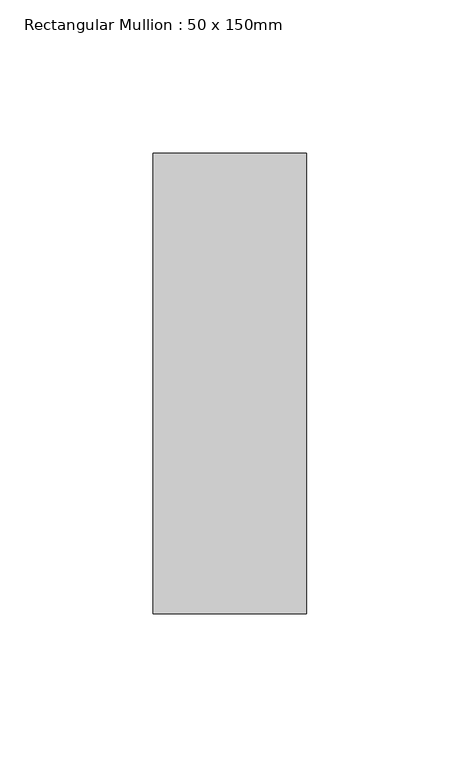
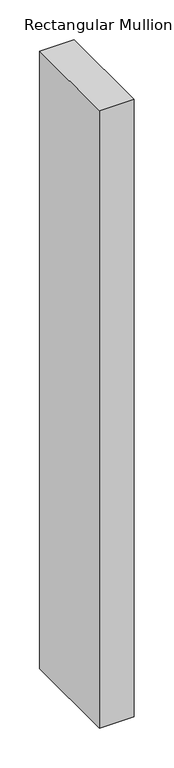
"""IFC4 building model written with IfcOpenShell, lengths in millimetres: member geometry, Rectangular Mullion : 50 x 150mm."""

from ifc_helpers import new_model, si_unit, frame, origin, place, context, project, spatial, polyline, outline, extrude, source, transform, mapped, element, save


def rectangular_mullion_50_x_150mm_22f0c19d(model_context):
    return source(origin(), model_context, "Body", "SweptSolid", [
        extrude(outline(polyline([(0.0, 75.0), (0.0, -75.0), (-50.0, -75.0), (-50.0, 75.0), (0.0, 75.0)])), frame((0.0, 0.0, -944.9999997), z_axis=(0.0, 0.0, 1.0), x_axis=(1.0, 0.0, 0.0)), (0.0, 0.0, 1.0), 944.9999997),
    ])


if __name__ == "__main__":
    model = new_model("IFC4")
    model_context = context("Model", 3, world=origin())
    ifc_project = project(units=[si_unit("LENGTHUNIT", "METRE", prefix="MILLI")], contexts=[model_context])
    site = spatial("IfcSite", under=ifc_project)
    building = spatial("IfcBuilding", under=site)
    placement = place(None, origin())
    rectangular_mullion_50_x_150mm_shape = rectangular_mullion_50_x_150mm_22f0c19d(model_context)
    element("IfcMember", 1, ObjectType="Rectangular Mullion : 50 x 150mm", at=placement, inside=building, context=model_context, shape_type="MappedRepresentation", body=[
        mapped(rectangular_mullion_50_x_150mm_shape, transform((0.0, 0.0, 0.0), x_axis=(1.0, 0.0, 0.0), y_axis=(0.0, 1.0, 0.0), z_axis=(0.0, 0.0, 1.0))),
    ])
    save(model, "model.ifc")
